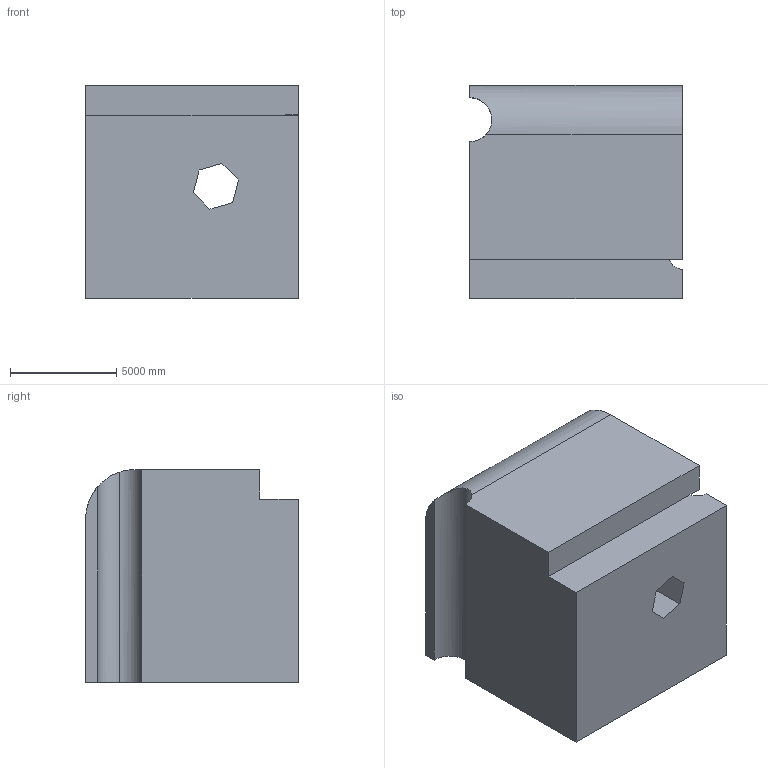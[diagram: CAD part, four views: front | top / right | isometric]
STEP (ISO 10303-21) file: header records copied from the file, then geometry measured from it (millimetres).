
FILE_DESCRIPTION (( 'STEP AP203' ), '1' );
FILE_NAME ('1455.STEP', '2022-08-26T10:19:16', ( 'user' ), ( '' ), 'SwSTEP 2.0', 'SolidWorks 2021', '' );
FILE_SCHEMA (( 'CONFIG_CONTROL_DESIGN' ));
Length unit declared in the file: centimetre
Products named in the file (1): 1455
Bounding box: 10000 x 10000 x 10000 mm (x, y, z)
Volume: 897179450645.7 mm3; surface area: 656088620.5 mm2
Topology: 1 solids, 1 shells, 23 faces, 63 edges, 42 vertices
Faces by surface type: plane 18, cylinder 5
Entity records: 908 total; most frequent: CARTESIAN_POINT 233, ORIENTED_EDGE 126, DIRECTION 119, EDGE_CURVE 63, VECTOR 51, LINE 51, VERTEX_POINT 42, AXIS2_PLACEMENT_3D 34
